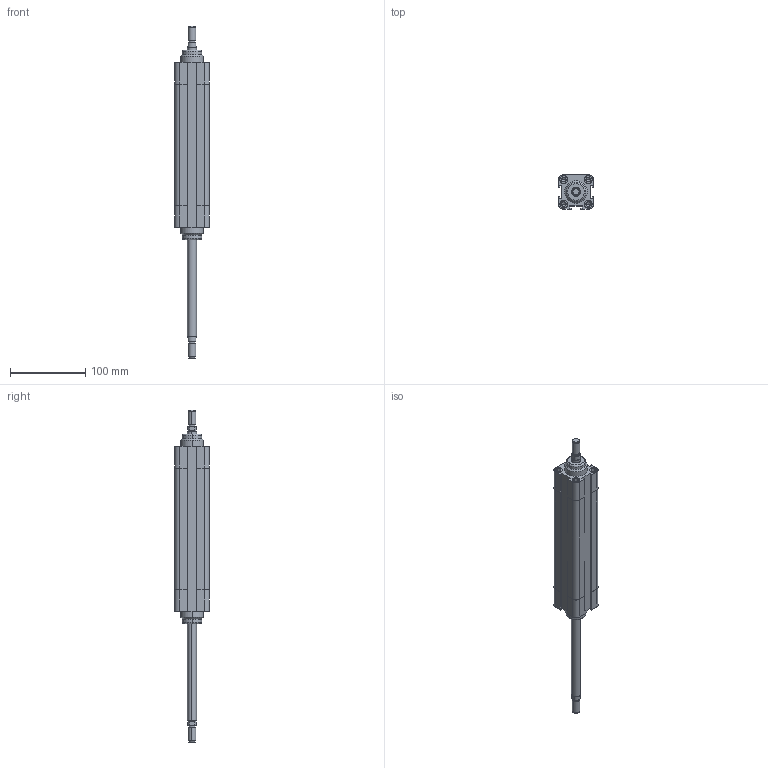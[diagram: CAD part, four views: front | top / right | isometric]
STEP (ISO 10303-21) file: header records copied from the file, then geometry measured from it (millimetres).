
FILE_DESCRIPTION((''),'2;1');
FILE_NAME('F:\Lib-3d\1380\CIL\1380_32_0125_02.stp','2004-01-07T15:58:43',('maffial1'),(''),'Autodesk Inventor 8','Autodesk Inventor 8','');
FILE_SCHEMA(('AUTOMOTIVE_DESIGN { 1 0 10303 214 1 1 1 1 }'));
Length unit declared in the file: millimetre
Products named in the file (3): 1380_32_0125_02; CPP04_32_125; CPP03_32_125
Assembly tree (2 placements, depth 2):
  1380_32_0125_02
    CPP04_32_125
    CPP03_32_125
Bounding box: 46 x 46 x 440 mm (x, y, z)
Volume: 442427.2 mm3; surface area: 86195.3 mm2
Topology: 2 solids, 2 shells, 236 faces, 564 edges, 356 vertices
Faces by surface type: plane 80, cylinder 66, bspline 62, cone 24, torus 4
Entity records: 7513 total; most frequent: CARTESIAN_POINT 2031, DIRECTION 1154, ORIENTED_EDGE 1096, EDGE_CURVE 548, AXIS2_PLACEMENT_3D 427, VERTEX_POINT 356, VECTOR 300, LINE 300
